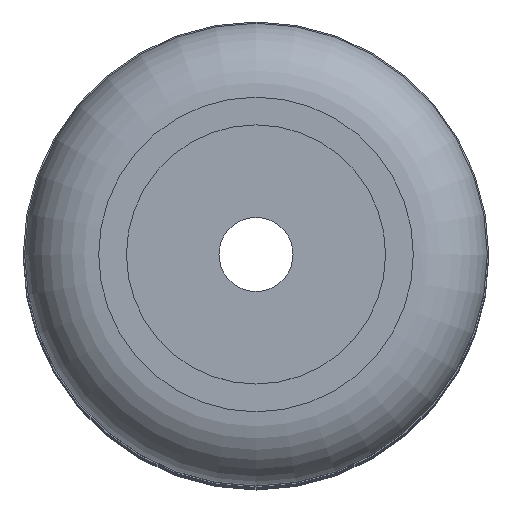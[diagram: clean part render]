
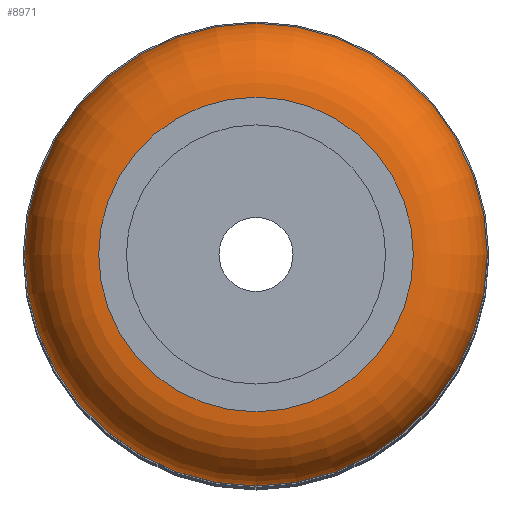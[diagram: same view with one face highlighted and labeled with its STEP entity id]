
A CAD part, top view. The second image highlights one B-rep face of the part: STEP entity #8971.
In plain terms, the highlighted toroidal (fillet/blend) face has major radius 17 mm and minor radius 8 mm.
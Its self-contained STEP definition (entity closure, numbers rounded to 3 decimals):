
#34=TOROIDAL_SURFACE('',#32123,17.,8.);
#8971=ADVANCED_FACE('',(#11177,#11178),#34,.T.);
#11177=FACE_BOUND('',#11372,.T.);
#11178=FACE_BOUND('',#11373,.T.);
#11372=EDGE_LOOP('',(#13182));
#11373=EDGE_LOOP('',(#13183));
#13182=ORIENTED_EDGE('',*,*,#25809,.F.);
#13183=ORIENTED_EDGE('',*,*,#25810,.F.);
#22614=VERTEX_POINT('',#47759);
#22615=VERTEX_POINT('',#47761);
#25809=EDGE_CURVE('',#22614,#22614,#30522,.T.);
#25810=EDGE_CURVE('',#22615,#22615,#30523,.T.);
#30522=CIRCLE('',#32121,25.);
#30523=CIRCLE('',#32122,17.);
#32121=AXIS2_PLACEMENT_3D('',#47758,#35353,#35354);
#32122=AXIS2_PLACEMENT_3D('',#47760,#35355,#35356);
#32123=AXIS2_PLACEMENT_3D('',#47762,#35357,#35358);
#35353=DIRECTION('',(0.,0.,-1.));
#35354=DIRECTION('',(1.,0.,0.));
#35355=DIRECTION('',(0.,0.,1.));
#35356=DIRECTION('',(1.,0.,0.));
#35357=DIRECTION('',(0.,0.,1.));
#35358=DIRECTION('',(1.,0.,0.));
#47758=CARTESIAN_POINT('',(0.,200.,200.5));
#47759=CARTESIAN_POINT('',(25.,200.,200.5));
#47760=CARTESIAN_POINT('',(0.,200.,208.5));
#47761=CARTESIAN_POINT('',(17.,200.,208.5));
#47762=CARTESIAN_POINT('',(0.,200.,200.5));
